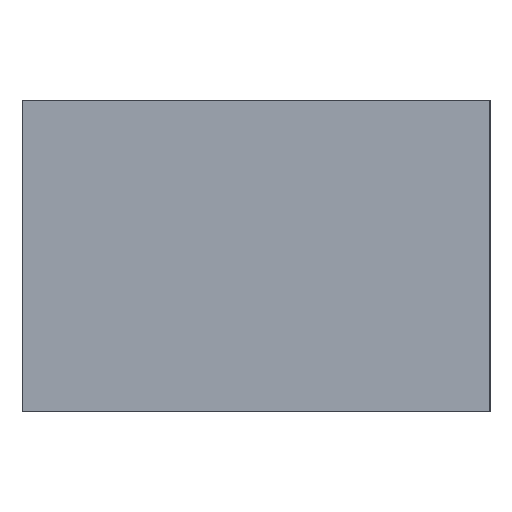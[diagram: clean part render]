
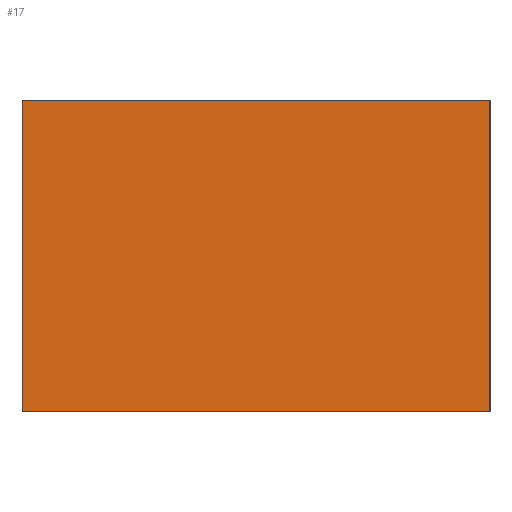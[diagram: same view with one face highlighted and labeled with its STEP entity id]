
A CAD part, left-side view. The second image highlights one B-rep face of the part: STEP entity #17.
In plain terms, the highlighted planar face has unit normal (-1, 0, 0).
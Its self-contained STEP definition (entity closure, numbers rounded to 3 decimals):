
#17 = ADVANCED_FACE('',(#18),#32,.F.);
#18 = FACE_BOUND('',#19,.F.);
#19 = EDGE_LOOP('',(#20,#55,#83,#111));
#20 = ORIENTED_EDGE('',*,*,#21,.F.);
#21 = EDGE_CURVE('',#22,#24,#26,.T.);
#22 = VERTEX_POINT('',#23);
#23 = CARTESIAN_POINT('',(-465.,-184.913,26.));
#24 = VERTEX_POINT('',#25);
#25 = CARTESIAN_POINT('',(-465.,-184.913,30.));
#26 = SURFACE_CURVE('',#27,(#31,#43),.PCURVE_S1.);
#27 = LINE('',#28,#29);
#28 = CARTESIAN_POINT('',(-465.,-184.913,26.));
#29 = VECTOR('',#30,1.);
#30 = DIRECTION('',(0.,0.,1.));
#31 = PCURVE('',#32,#37);
#32 = PLANE('',#33);
#33 = AXIS2_PLACEMENT_3D('',#34,#35,#36);
#34 = CARTESIAN_POINT('',(-465.,-184.913,26.));
#35 = DIRECTION('',(1.,0.,-0.));
#36 = DIRECTION('',(0.,0.,1.));
#37 = DEFINITIONAL_REPRESENTATION('',(#38),#42);
#38 = LINE('',#39,#40);
#39 = CARTESIAN_POINT('',(0.,0.));
#40 = VECTOR('',#41,1.);
#41 = DIRECTION('',(1.,0.));
#42 = ( GEOMETRIC_REPRESENTATION_CONTEXT(2) 
PARAMETRIC_REPRESENTATION_CONTEXT() REPRESENTATION_CONTEXT('2D SPACE',''
  ) );
#43 = PCURVE('',#44,#49);
#44 = PLANE('',#45);
#45 = AXIS2_PLACEMENT_3D('',#46,#47,#48);
#46 = CARTESIAN_POINT('',(-465.,-184.913,26.));
#47 = DIRECTION('',(-0.,1.,0.));
#48 = DIRECTION('',(0.,0.,1.));
#49 = DEFINITIONAL_REPRESENTATION('',(#50),#54);
#50 = LINE('',#51,#52);
#51 = CARTESIAN_POINT('',(0.,0.));
#52 = VECTOR('',#53,1.);
#53 = DIRECTION('',(1.,0.));
#54 = ( GEOMETRIC_REPRESENTATION_CONTEXT(2) 
PARAMETRIC_REPRESENTATION_CONTEXT() REPRESENTATION_CONTEXT('2D SPACE',''
  ) );
#55 = ORIENTED_EDGE('',*,*,#56,.T.);
#56 = EDGE_CURVE('',#22,#57,#59,.T.);
#57 = VERTEX_POINT('',#58);
#58 = CARTESIAN_POINT('',(-465.,-178.913,26.));
#59 = SURFACE_CURVE('',#60,(#64,#71),.PCURVE_S1.);
#60 = LINE('',#61,#62);
#61 = CARTESIAN_POINT('',(-465.,-184.913,26.));
#62 = VECTOR('',#63,1.);
#63 = DIRECTION('',(-0.,1.,0.));
#64 = PCURVE('',#32,#65);
#65 = DEFINITIONAL_REPRESENTATION('',(#66),#70);
#66 = LINE('',#67,#68);
#67 = CARTESIAN_POINT('',(0.,0.));
#68 = VECTOR('',#69,1.);
#69 = DIRECTION('',(0.,-1.));
#70 = ( GEOMETRIC_REPRESENTATION_CONTEXT(2) 
PARAMETRIC_REPRESENTATION_CONTEXT() REPRESENTATION_CONTEXT('2D SPACE',''
  ) );
#71 = PCURVE('',#72,#77);
#72 = PLANE('',#73);
#73 = AXIS2_PLACEMENT_3D('',#74,#75,#76);
#74 = CARTESIAN_POINT('',(-465.,-184.913,26.));
#75 = DIRECTION('',(0.,0.,1.));
#76 = DIRECTION('',(1.,0.,-0.));
#77 = DEFINITIONAL_REPRESENTATION('',(#78),#82);
#78 = LINE('',#79,#80);
#79 = CARTESIAN_POINT('',(0.,0.));
#80 = VECTOR('',#81,1.);
#81 = DIRECTION('',(0.,1.));
#82 = ( GEOMETRIC_REPRESENTATION_CONTEXT(2) 
PARAMETRIC_REPRESENTATION_CONTEXT() REPRESENTATION_CONTEXT('2D SPACE',''
  ) );
#83 = ORIENTED_EDGE('',*,*,#84,.T.);
#84 = EDGE_CURVE('',#57,#85,#87,.T.);
#85 = VERTEX_POINT('',#86);
#86 = CARTESIAN_POINT('',(-465.,-178.913,30.));
#87 = SURFACE_CURVE('',#88,(#92,#99),.PCURVE_S1.);
#88 = LINE('',#89,#90);
#89 = CARTESIAN_POINT('',(-465.,-178.913,26.));
#90 = VECTOR('',#91,1.);
#91 = DIRECTION('',(0.,0.,1.));
#92 = PCURVE('',#32,#93);
#93 = DEFINITIONAL_REPRESENTATION('',(#94),#98);
#94 = LINE('',#95,#96);
#95 = CARTESIAN_POINT('',(0.,-6.));
#96 = VECTOR('',#97,1.);
#97 = DIRECTION('',(1.,0.));
#98 = ( GEOMETRIC_REPRESENTATION_CONTEXT(2) 
PARAMETRIC_REPRESENTATION_CONTEXT() REPRESENTATION_CONTEXT('2D SPACE',''
  ) );
#99 = PCURVE('',#100,#105);
#100 = PLANE('',#101);
#101 = AXIS2_PLACEMENT_3D('',#102,#103,#104);
#102 = CARTESIAN_POINT('',(-465.,-178.913,26.));
#103 = DIRECTION('',(-0.,1.,0.));
#104 = DIRECTION('',(0.,0.,1.));
#105 = DEFINITIONAL_REPRESENTATION('',(#106),#110);
#106 = LINE('',#107,#108);
#107 = CARTESIAN_POINT('',(0.,0.));
#108 = VECTOR('',#109,1.);
#109 = DIRECTION('',(1.,0.));
#110 = ( GEOMETRIC_REPRESENTATION_CONTEXT(2) 
PARAMETRIC_REPRESENTATION_CONTEXT() REPRESENTATION_CONTEXT('2D SPACE',''
  ) );
#111 = ORIENTED_EDGE('',*,*,#112,.F.);
#112 = EDGE_CURVE('',#24,#85,#113,.T.);
#113 = SURFACE_CURVE('',#114,(#118,#125),.PCURVE_S1.);
#114 = LINE('',#115,#116);
#115 = CARTESIAN_POINT('',(-465.,-184.913,30.));
#116 = VECTOR('',#117,1.);
#117 = DIRECTION('',(-0.,1.,0.));
#118 = PCURVE('',#32,#119);
#119 = DEFINITIONAL_REPRESENTATION('',(#120),#124);
#120 = LINE('',#121,#122);
#121 = CARTESIAN_POINT('',(4.,0.));
#122 = VECTOR('',#123,1.);
#123 = DIRECTION('',(0.,-1.));
#124 = ( GEOMETRIC_REPRESENTATION_CONTEXT(2) 
PARAMETRIC_REPRESENTATION_CONTEXT() REPRESENTATION_CONTEXT('2D SPACE',''
  ) );
#125 = PCURVE('',#126,#131);
#126 = PLANE('',#127);
#127 = AXIS2_PLACEMENT_3D('',#128,#129,#130);
#128 = CARTESIAN_POINT('',(-465.,-184.913,30.));
#129 = DIRECTION('',(0.,0.,1.));
#130 = DIRECTION('',(1.,0.,-0.));
#131 = DEFINITIONAL_REPRESENTATION('',(#132),#136);
#132 = LINE('',#133,#134);
#133 = CARTESIAN_POINT('',(0.,0.));
#134 = VECTOR('',#135,1.);
#135 = DIRECTION('',(0.,1.));
#136 = ( GEOMETRIC_REPRESENTATION_CONTEXT(2) 
PARAMETRIC_REPRESENTATION_CONTEXT() REPRESENTATION_CONTEXT('2D SPACE',''
  ) );
